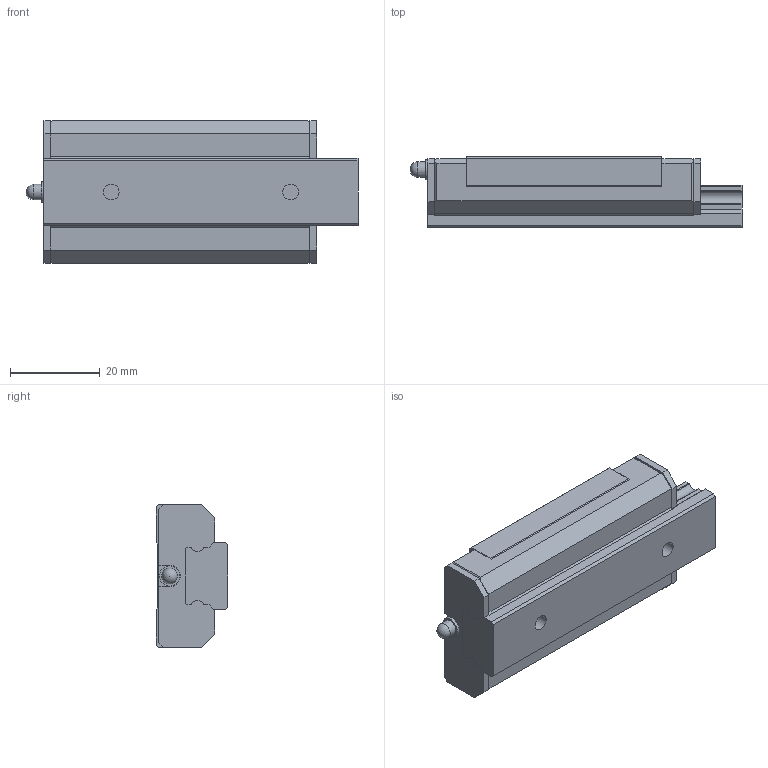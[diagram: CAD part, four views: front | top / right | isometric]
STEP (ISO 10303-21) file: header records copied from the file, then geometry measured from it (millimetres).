
FILE_DESCRIPTION(/* description */ ('STEP AP203'),/* implementation_level */ '2;1');
FILE_NAME(/* name */ 'SRS15GNSS-70LM_G15_0_PB107_0_0_0_0_1',/* time_stamp */ '2024-05-17T10:24:37+02:00',/* author */ ('License CC BY-ND 4.0'),/* organization */ ('CADENAS'),/* preprocessor_version */ 'ST-DEVELOPER v19.3',/* originating_system */ 'PARTsolutions',/* authorisation */ ' ');
FILE_SCHEMA (('CONFIG_CONTROL_DESIGN'));
Length unit declared in the file: millimetre
Products named in the file (4): SRS15GNSS-70LM_G15_0_PB107_0_0_0_0_1; SRS15N7015 Track; SRS15NSSPB1071 Slider; PB107-SRS Grease Nipple Joint
Assembly tree (3 placements, depth 2):
  SRS15GNSS-70LM_G15_0_PB107_0_0_0_0_1
    SRS15N7015 Track
    SRS15NSSPB1071 Slider
    PB107-SRS Grease Nipple Joint
Bounding box: 74 x 16 x 32 mm (x, y, z)
Volume: 27445.7 mm3; surface area: 10889.3 mm2
Topology: 3 solids, 3 shells, 141 faces, 370 edges, 240 vertices
Faces by surface type: plane 103, cylinder 29, cone 8, sphere 1
Full cylindrical faces by diameter (mm): 2.459 x4, 3 x3, 3.5 x3, 4.5 x1, 6 x2
Entity records: 4211 total; most frequent: CARTESIAN_POINT 717, DIRECTION 690, ORIENTED_EDGE 676, EDGE_CURVE 338, LINE 276, VECTOR 276, VERTEX_POINT 234, AXIS2_PLACEMENT_3D 207
